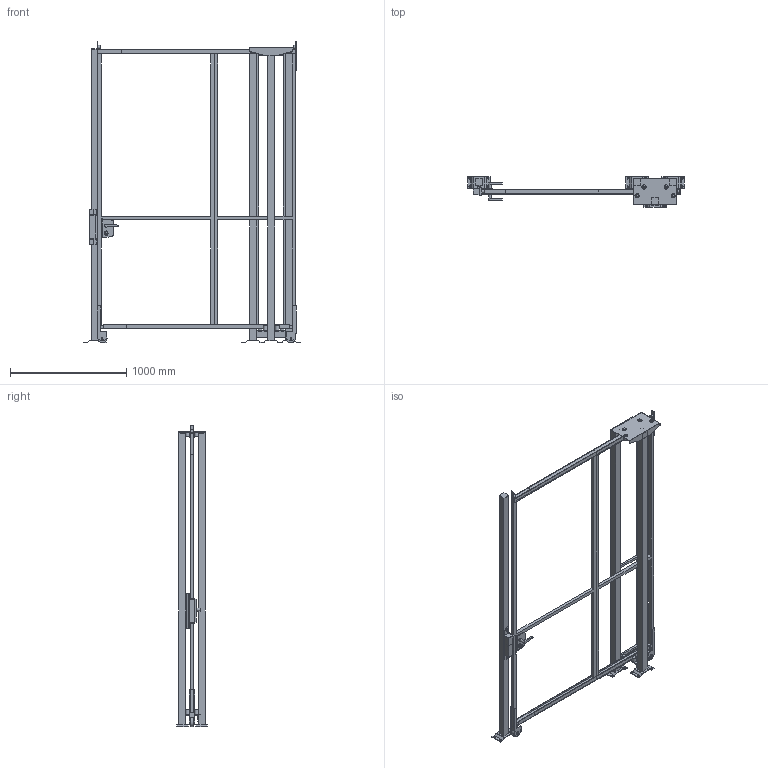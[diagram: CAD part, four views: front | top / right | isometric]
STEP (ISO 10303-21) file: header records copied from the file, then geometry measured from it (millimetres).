
FILE_DESCRIPTION(/* description */ (''),/* implementation_level */ '2;1');
FILE_NAME(/* name */ 'C:\SafeGuarding\ELABORATI\KLADKOUGAMMA_2025-03-21-11-29-11.stp',/* time_stamp */ '2025-03-21T11:29:16+01:00',/* author */ ('admin'),/* organization */ (''),/* preprocessor_version */ 'ST-DEVELOPER v18.1',/* originating_system */ 'AutoCAD Mechanical',/* authorisation */ '');
FILE_SCHEMA (('AUTOMOTIVE_DESIGN { 1 0 10303 214 3 1 1 }'));
Length unit declared in the file: millimetre
Products named in the file (5): Product; VFPA.REPE30.07002400; VFPA.REPE30.10002400; VFPA.REPE2002502400; P_VFMA.V260SDU.2520
Assembly tree (7 placements, depth 2):
  Product
    VFPA.REPE30.07002400
    VFPA.REPE30.10002400
    P_VFMA.V260SDU.2520  x4
    VFPA.REPE2002502400
Bounding box: 1861.91 x 264 x 2590.02 mm (x, y, z)
Volume: 55913157.4 mm3; surface area: 7049888.9 mm2
Topology: 55 solids, 55 shells, 554 faces, 1642 edges, 1540 vertices
Faces by surface type: plane 476, cylinder 74, bspline 4
Full cylindrical faces by diameter (mm): 9 x4, 11 x16, 13 x4, 18 x1, 25 x2, 25.398 x2, 30 x6, 36 x8, 80 x2
Entity records: 16766 total; most frequent: CARTESIAN_POINT 4376, DIRECTION 2466, ORIENTED_EDGE 2206, LINE 1122, VECTOR 1122, EDGE_CURVE 1103, VERTEX_POINT 742, AXIS2_PLACEMENT_3D 672
